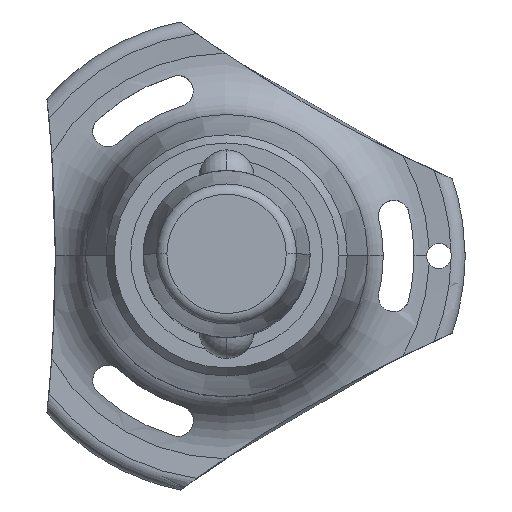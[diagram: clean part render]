
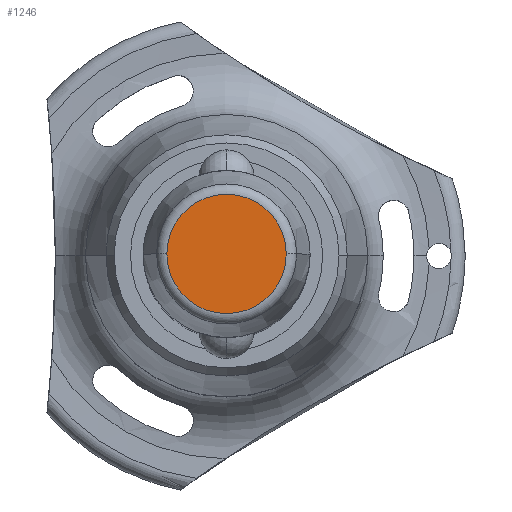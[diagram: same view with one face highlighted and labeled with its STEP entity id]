
A CAD part, top view. The second image highlights one B-rep face of the part: STEP entity #1246.
In plain terms, the highlighted planar face has unit normal (0, 0, 1).
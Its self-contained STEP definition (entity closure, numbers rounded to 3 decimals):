
#310 = CARTESIAN_POINT ( 'NONE',  ( 7.144, 0., 20.5 ) ) ;
#389 = CIRCLE ( 'NONE', #625, 7.144 ) ;
#451 = ORIENTED_EDGE ( 'NONE', *, *, #755, .T. ) ;
#561 = DIRECTION ( 'NONE',  ( 1., 0., 0. ) ) ;
#625 = AXIS2_PLACEMENT_3D ( 'NONE', #2076, #781, #561 ) ;
#755 = EDGE_CURVE ( 'NONE', #929, #2767, #389, .T. ) ;
#781 = DIRECTION ( 'NONE',  ( 0., 0., 1. ) ) ;
#806 = CARTESIAN_POINT ( 'NONE',  ( 0., 0., 20.5 ) ) ;
#929 = VERTEX_POINT ( 'NONE', #2136 ) ;
#1246 = ADVANCED_FACE ( 'NONE', ( #1632 ), #2131, .T. ) ;
#1375 = AXIS2_PLACEMENT_3D ( 'NONE', #1564, #1404, #2065 ) ;
#1404 = DIRECTION ( 'NONE',  ( 0., 0., 1. ) ) ;
#1538 = EDGE_CURVE ( 'NONE', #2767, #929, #2021, .T. ) ;
#1564 = CARTESIAN_POINT ( 'NONE',  ( 0., 0., 20.5 ) ) ;
#1632 = FACE_OUTER_BOUND ( 'NONE', #1934, .T. ) ;
#1934 = EDGE_LOOP ( 'NONE', ( #2778, #451 ) ) ;
#2021 = CIRCLE ( 'NONE', #1375, 7.144 ) ;
#2065 = DIRECTION ( 'NONE',  ( 1., 0., 0. ) ) ;
#2076 = CARTESIAN_POINT ( 'NONE',  ( 0., 0., 20.5 ) ) ;
#2131 = PLANE ( 'NONE',  #2757 ) ;
#2136 = CARTESIAN_POINT ( 'NONE',  ( -7.144, 0., 20.5 ) ) ;
#2513 = DIRECTION ( 'NONE',  ( 0., 0., 1. ) ) ;
#2587 = DIRECTION ( 'NONE',  ( 1., 0., 0. ) ) ;
#2757 = AXIS2_PLACEMENT_3D ( 'NONE', #806, #2513, #2587 ) ;
#2767 = VERTEX_POINT ( 'NONE', #310 ) ;
#2778 = ORIENTED_EDGE ( 'NONE', *, *, #1538, .T. ) ;
